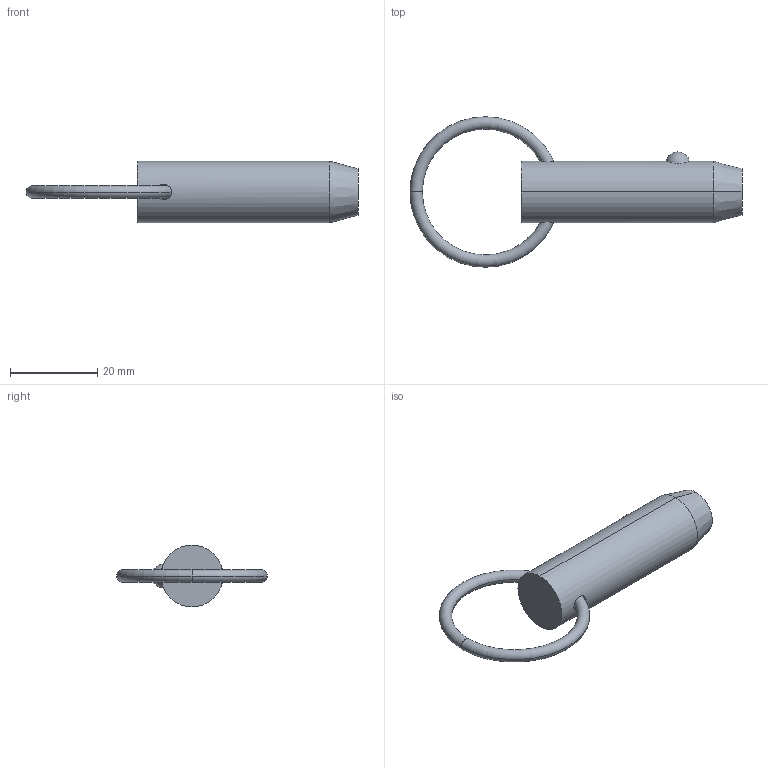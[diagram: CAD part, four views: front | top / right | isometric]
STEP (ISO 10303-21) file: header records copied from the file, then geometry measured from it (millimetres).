
FILE_DESCRIPTION (( 'STEP AP203' ), '1' );
FILE_NAME ('33010.W5610.step', '2024-11-01T10:39:32', ( '' ), ( '' ), 'SwSTEP 2.0', 'SolidWorks 2019', '' );
FILE_SCHEMA (( 'CONFIG_CONTROL_DESIGN' ));
Length unit declared in the file: millimetre
Products named in the file (3): 33010.W5610; Part1_33010.W5610; Part2_33010.W5610
Assembly tree (2 placements, depth 2):
  33010.W5610
    Part1_33010.W5610
    Part2_33010.W5610
Bounding box: 76.3 x 34.59 x 14.22 mm (x, y, z)
Volume: 8342.1 mm3; surface area: 3536.4 mm2
Topology: 2 solids, 2 shells, 16 faces, 31 edges, 18 vertices
Faces by surface type: torus 8, sphere 2, cone 2, cylinder 2, plane 2
Entity records: 875 total; most frequent: CARTESIAN_POINT 232, DIRECTION 88, ORIENTED_EDGE 62, AXIS2_PLACEMENT_3D 42, EDGE_CURVE 31, PERSON_AND_ORGANIZATION 26, CIRCLE 21, CALENDAR_DATE 19
